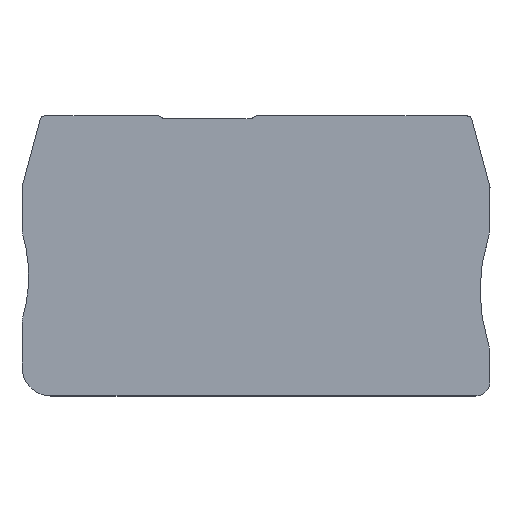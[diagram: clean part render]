
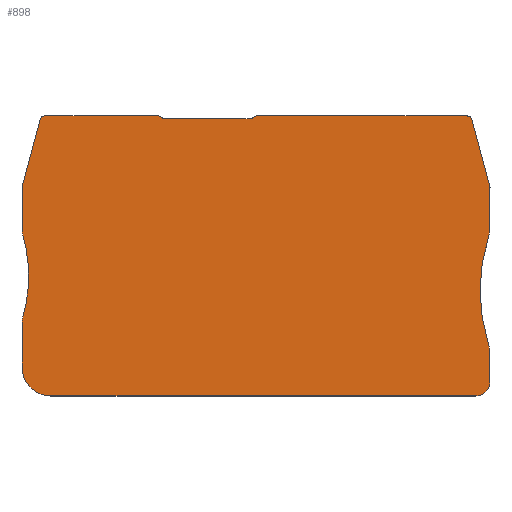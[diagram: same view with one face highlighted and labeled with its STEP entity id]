
A CAD part, top view. The second image highlights one B-rep face of the part: STEP entity #898.
In plain terms, the highlighted planar face has unit normal (0, 0, 1).
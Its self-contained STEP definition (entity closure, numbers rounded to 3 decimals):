
#37=CARTESIAN_POINT('',(3.1,-29.14,4.797));
#38=VERTEX_POINT('',#37);
#45=CARTESIAN_POINT('',(0.1,-26.14,4.797));
#46=VERTEX_POINT('',#45);
#47=CARTESIAN_POINT('',(3.1,-26.14,4.797));
#48=DIRECTION('',(0.,-1.,0.));
#49=DIRECTION('',(0.,0.,-1.));
#50=AXIS2_PLACEMENT_3D('',#47,#49,#48);
#51=CIRCLE('',#50,3.);
#52=EDGE_CURVE('',#38,#46,#51,.T.);
#77=CARTESIAN_POINT('',(0.1,-21.468,4.797));
#78=VERTEX_POINT('',#77);
#79=CARTESIAN_POINT('',(0.181,-20.906,4.797));
#80=VERTEX_POINT('',#79);
#81=CARTESIAN_POINT('',(2.091,-21.468,4.797));
#82=DIRECTION('',(-1.,0.,0.));
#83=DIRECTION('',(0.,0.,-1.));
#84=AXIS2_PLACEMENT_3D('',#81,#83,#82);
#85=CIRCLE('',#84,1.992);
#86=EDGE_CURVE('',#78,#80,#85,.T.);
#119=CARTESIAN_POINT('',(0.181,-12.475,4.797));
#120=VERTEX_POINT('',#119);
#121=CARTESIAN_POINT('',(0.1,-11.913,4.797));
#122=VERTEX_POINT('',#121);
#123=CARTESIAN_POINT('',(2.091,-11.913,4.797));
#124=DIRECTION('',(-0.959,-0.282,0.));
#125=DIRECTION('',(0.,0.,-1.));
#126=AXIS2_PLACEMENT_3D('',#123,#125,#124);
#127=CIRCLE('',#126,1.992);
#128=EDGE_CURVE('',#120,#122,#127,.T.);
#161=CARTESIAN_POINT('',(0.1,-7.545,4.797));
#162=VERTEX_POINT('',#161);
#163=CARTESIAN_POINT('',(0.1,-11.913,4.797));
#164=DIRECTION('',(0.,1.,0.));
#165=VECTOR('',#164,4.368);
#166=LINE('',#163,#165);
#167=EDGE_CURVE('',#122,#162,#166,.T.);
#192=CARTESIAN_POINT('',(0.116,-7.4,4.797));
#193=VERTEX_POINT('',#192);
#194=CARTESIAN_POINT('',(0.597,-7.529,4.797));
#195=DIRECTION('',(-0.999,-0.033,0.));
#196=DIRECTION('',(0.,0.,-1.));
#197=AXIS2_PLACEMENT_3D('',#194,#196,#195);
#198=CIRCLE('',#197,0.498);
#199=EDGE_CURVE('',#162,#193,#198,.T.);
#225=CARTESIAN_POINT('',(1.984,-0.428,4.797));
#226=VERTEX_POINT('',#225);
#227=CARTESIAN_POINT('',(0.116,-7.4,4.797));
#228=DIRECTION('',(0.259,0.966,0.));
#229=VECTOR('',#228,7.217);
#230=LINE('',#227,#229);
#231=EDGE_CURVE('',#193,#226,#230,.T.);
#256=CARTESIAN_POINT('',(2.465,-0.059,4.797));
#257=VERTEX_POINT('',#256);
#258=CARTESIAN_POINT('',(2.465,-0.557,4.797));
#259=DIRECTION('',(-0.966,0.259,0.));
#260=DIRECTION('',(0.,0.,-1.));
#261=AXIS2_PLACEMENT_3D('',#258,#260,#259);
#262=CIRCLE('',#261,0.498);
#263=EDGE_CURVE('',#226,#257,#262,.T.);
#289=CARTESIAN_POINT('',(14.291,-0.059,4.797));
#290=VERTEX_POINT('',#289);
#306=CARTESIAN_POINT('',(2.465,-0.059,4.797));
#307=DIRECTION('',(1.,0.,0.));
#308=VECTOR('',#307,11.826);
#309=LINE('',#306,#308);
#310=EDGE_CURVE('',#257,#290,#309,.T.);
#321=CARTESIAN_POINT('',(14.75,-0.363,4.797));
#322=VERTEX_POINT('',#321);
#323=CARTESIAN_POINT('',(14.291,-0.557,4.797));
#324=DIRECTION('',(0.,1.,0.));
#325=DIRECTION('',(0.,0.,-1.));
#326=AXIS2_PLACEMENT_3D('',#323,#325,#324);
#327=CIRCLE('',#326,0.498);
#328=EDGE_CURVE('',#290,#322,#327,.T.);
#353=CARTESIAN_POINT('',(23.991,-0.363,4.797));
#354=VERTEX_POINT('',#353);
#355=CARTESIAN_POINT('',(24.449,-0.059,4.797));
#356=VERTEX_POINT('',#355);
#357=CARTESIAN_POINT('',(24.449,-0.557,4.797));
#358=DIRECTION('',(-0.921,0.389,0.));
#359=DIRECTION('',(0.,0.,-1.));
#360=AXIS2_PLACEMENT_3D('',#357,#359,#358);
#361=CIRCLE('',#360,0.498);
#362=EDGE_CURVE('',#354,#356,#361,.T.);
#395=CARTESIAN_POINT('',(46.334,-0.059,4.797));
#396=VERTEX_POINT('',#395);
#397=CARTESIAN_POINT('',(24.449,-0.059,4.797));
#398=DIRECTION('',(1.,0.,0.));
#399=VECTOR('',#398,21.885);
#400=LINE('',#397,#399);
#401=EDGE_CURVE('',#356,#396,#400,.T.);
#426=CARTESIAN_POINT('',(46.815,-0.428,4.797));
#427=VERTEX_POINT('',#426);
#428=CARTESIAN_POINT('',(46.334,-0.557,4.797));
#429=DIRECTION('',(0.,1.,0.));
#430=DIRECTION('',(0.,0.,-1.));
#431=AXIS2_PLACEMENT_3D('',#428,#430,#429);
#432=CIRCLE('',#431,0.498);
#433=EDGE_CURVE('',#396,#427,#432,.T.);
#459=CARTESIAN_POINT('',(48.683,-7.4,4.797));
#460=VERTEX_POINT('',#459);
#461=CARTESIAN_POINT('',(46.815,-0.428,4.797));
#462=DIRECTION('',(0.259,-0.966,0.));
#463=VECTOR('',#462,7.217);
#464=LINE('',#461,#463);
#465=EDGE_CURVE('',#427,#460,#464,.T.);
#491=CARTESIAN_POINT('',(48.7,-7.529,4.797));
#492=VERTEX_POINT('',#491);
#493=CARTESIAN_POINT('',(48.202,-7.529,4.797));
#494=DIRECTION('',(0.966,0.259,0.));
#495=DIRECTION('',(0.,0.,-1.));
#496=AXIS2_PLACEMENT_3D('',#493,#495,#494);
#497=CIRCLE('',#496,0.498);
#498=EDGE_CURVE('',#460,#492,#497,.T.);
#534=CARTESIAN_POINT('',(48.7,-7.545,4.797));
#535=VERTEX_POINT('',#534);
#536=CARTESIAN_POINT('',(48.202,-7.529,4.797));
#537=DIRECTION('',(1.,0.,0.));
#538=DIRECTION('',(0.,0.,-1.));
#539=AXIS2_PLACEMENT_3D('',#536,#538,#537);
#540=CIRCLE('',#539,0.498);
#541=TRIMMED_CURVE('',#540,(PARAMETER_VALUE(0.)),(PARAMETER_VALUE(0.033)),.T.,.PARAMETER.);
#542=EDGE_CURVE('',#492,#535,#541,.T.);
#570=CARTESIAN_POINT('',(48.7,-11.766,4.797));
#571=VERTEX_POINT('',#570);
#572=CARTESIAN_POINT('',(48.7,-7.545,4.797));
#573=DIRECTION('',(0.,-1.,0.));
#574=VECTOR('',#573,4.221);
#575=LINE('',#572,#574);
#576=EDGE_CURVE('',#535,#571,#575,.T.);
#601=CARTESIAN_POINT('',(48.599,-12.393,4.797));
#602=VERTEX_POINT('',#601);
#603=CARTESIAN_POINT('',(46.708,-11.766,4.797));
#604=DIRECTION('',(1.,0.,0.));
#605=DIRECTION('',(0.,0.,-1.));
#606=AXIS2_PLACEMENT_3D('',#603,#605,#604);
#607=CIRCLE('',#606,1.992);
#608=EDGE_CURVE('',#571,#602,#607,.T.);
#634=CARTESIAN_POINT('',(48.599,-23.977,4.797));
#635=VERTEX_POINT('',#634);
#636=CARTESIAN_POINT('',(66.089,-18.185,4.797));
#637=DIRECTION('',(-0.949,0.314,0.));
#638=DIRECTION('',(0.,0.,1.));
#639=AXIS2_PLACEMENT_3D('',#636,#638,#637);
#640=CIRCLE('',#639,18.424);
#641=EDGE_CURVE('',#602,#635,#640,.T.);
#667=CARTESIAN_POINT('',(48.7,-24.603,4.797));
#668=VERTEX_POINT('',#667);
#669=CARTESIAN_POINT('',(46.708,-24.603,4.797));
#670=DIRECTION('',(0.949,0.314,0.));
#671=DIRECTION('',(0.,0.,-1.));
#672=AXIS2_PLACEMENT_3D('',#669,#671,#670);
#673=CIRCLE('',#672,1.992);
#674=EDGE_CURVE('',#635,#668,#673,.T.);
#700=CARTESIAN_POINT('',(48.7,-27.646,4.797));
#701=VERTEX_POINT('',#700);
#702=CARTESIAN_POINT('',(48.7,-24.603,4.797));
#703=DIRECTION('',(0.,-1.,0.));
#704=VECTOR('',#703,3.043);
#705=LINE('',#702,#704);
#706=EDGE_CURVE('',#668,#701,#705,.T.);
#731=CARTESIAN_POINT('',(47.206,-29.14,4.797));
#732=VERTEX_POINT('',#731);
#733=CARTESIAN_POINT('',(47.206,-27.646,4.797));
#734=DIRECTION('',(1.,0.,0.));
#735=DIRECTION('',(0.,0.,-1.));
#736=AXIS2_PLACEMENT_3D('',#733,#735,#734);
#737=CIRCLE('',#736,1.494);
#738=EDGE_CURVE('',#701,#732,#737,.T.);
#772=CARTESIAN_POINT('',(47.206,-29.14,4.797));
#773=DIRECTION('',(-1.,0.,0.));
#774=VECTOR('',#773,44.106);
#775=LINE('',#772,#774);
#776=EDGE_CURVE('',#732,#38,#775,.T.);
#787=CARTESIAN_POINT('',(0.1,-26.14,4.797));
#788=DIRECTION('',(0.,1.,0.));
#789=VECTOR('',#788,4.671);
#790=LINE('',#787,#789);
#791=EDGE_CURVE('',#46,#78,#790,.T.);
#810=CARTESIAN_POINT('',(0.788,-16.691,4.797));
#811=VERTEX_POINT('',#810);
#818=CARTESIAN_POINT('',(-14.151,-16.691,4.797));
#819=DIRECTION('',(1.,0.,0.));
#820=DIRECTION('',(0.,0.,1.));
#821=AXIS2_PLACEMENT_3D('',#818,#820,#819);
#822=CIRCLE('',#821,14.939);
#823=EDGE_CURVE('',#811,#120,#822,.T.);
#841=CARTESIAN_POINT('',(-14.151,-16.691,4.797));
#842=DIRECTION('',(0.959,-0.282,0.));
#843=DIRECTION('',(0.,0.,1.));
#844=AXIS2_PLACEMENT_3D('',#841,#843,#842);
#845=CIRCLE('',#844,14.939);
#846=EDGE_CURVE('',#80,#811,#845,.T.);
#860=CARTESIAN_POINT('',(24.399,-4.838,4.797));
#861=DIRECTION('',(1.,0.,0.));
#862=DIRECTION('',(0.,0.,1.));
#863=AXIS2_PLACEMENT_3D('',#860,#862,#861);
#864=PLANE('',#863);
#865=ORIENTED_EDGE('',*,*,#328,.F.);
#866=ORIENTED_EDGE('',*,*,#310,.F.);
#867=ORIENTED_EDGE('',*,*,#263,.F.);
#868=ORIENTED_EDGE('',*,*,#231,.F.);
#869=ORIENTED_EDGE('',*,*,#199,.F.);
#870=ORIENTED_EDGE('',*,*,#167,.F.);
#871=ORIENTED_EDGE('',*,*,#128,.F.);
#872=ORIENTED_EDGE('',*,*,#823,.F.);
#873=ORIENTED_EDGE('',*,*,#846,.F.);
#874=ORIENTED_EDGE('',*,*,#86,.F.);
#875=ORIENTED_EDGE('',*,*,#791,.F.);
#876=ORIENTED_EDGE('',*,*,#52,.F.);
#877=ORIENTED_EDGE('',*,*,#776,.F.);
#878=ORIENTED_EDGE('',*,*,#738,.F.);
#879=ORIENTED_EDGE('',*,*,#706,.F.);
#880=ORIENTED_EDGE('',*,*,#674,.F.);
#881=ORIENTED_EDGE('',*,*,#641,.F.);
#882=ORIENTED_EDGE('',*,*,#608,.F.);
#883=ORIENTED_EDGE('',*,*,#576,.F.);
#884=ORIENTED_EDGE('',*,*,#542,.F.);
#885=ORIENTED_EDGE('',*,*,#498,.F.);
#886=ORIENTED_EDGE('',*,*,#465,.F.);
#887=ORIENTED_EDGE('',*,*,#433,.F.);
#888=ORIENTED_EDGE('',*,*,#401,.F.);
#889=ORIENTED_EDGE('',*,*,#362,.F.);
#890=CARTESIAN_POINT('',(23.991,-0.363,4.797));
#891=DIRECTION('',(-1.,0.,0.));
#892=VECTOR('',#891,9.241);
#893=LINE('',#890,#892);
#894=EDGE_CURVE('',#354,#322,#893,.T.);
#895=ORIENTED_EDGE('',*,*,#894,.T.);
#896=EDGE_LOOP('',(#865,#866,#867,#868,#869,#870,#871,#872,#873,#874,#875,#876,#877,#878,#879,#880,#881,#882,#883,#884,#885,#886,#887,#888,#889,#895));
#897=FACE_OUTER_BOUND('',#896,.T.);
#898=ADVANCED_FACE('',(#897),#864,.T.);
